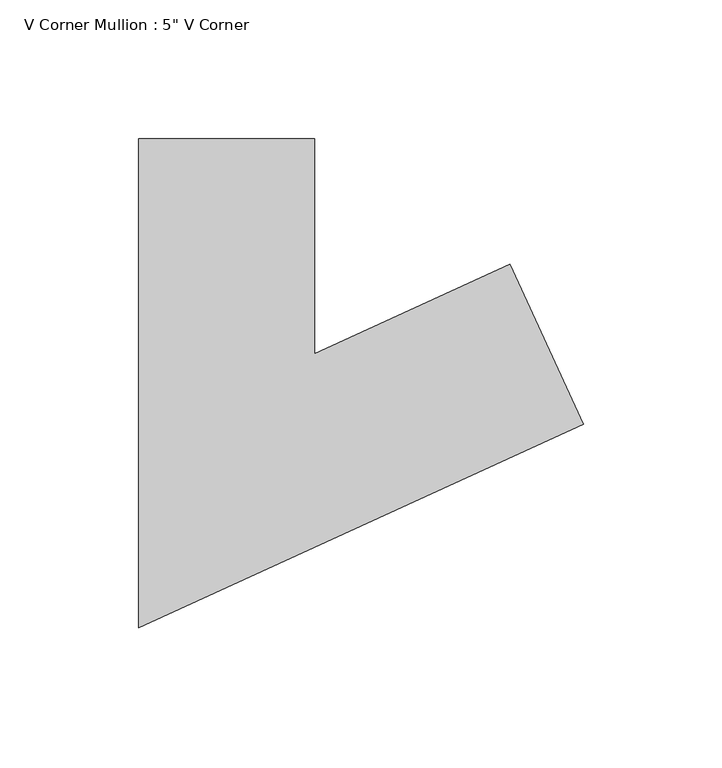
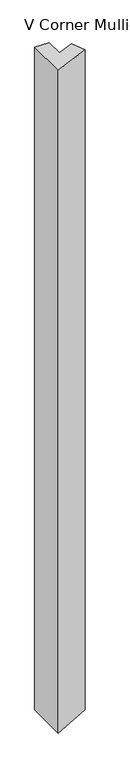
"""IFC4 building model written with IfcOpenShell, lengths in millimetres: member geometry."""

from ifc_helpers import new_model, si_unit, origin, place, context, project, spatial, faceted_brep, source, transform, mapped, element, save


def member_71d430ac(model_context):
    return source(origin(), model_context, "Body", "Brep", [
        faceted_brep([(61.49523, 18.2208415, -2.2200574), (87.9205542, -39.5195451, -3.1740458), (87.9205542, -39.5195451, -3045.05901), (61.49523, 18.2208415, -3046.012147), (-9.0228811, -14.0523047, 0.3257377), (-9.0228811, -14.0523047, -3048.5556699), (-9.0228811, 63.5, 0.3257377), (-9.0228811, 63.5, -3048.5556699), (-72.5228811, 63.5, 2.6181699), (-72.5228811, 63.5, -3050.8460561), (-72.5228811, -112.9476953, 2.6181699), (-72.5228811, -112.9476953, -3050.8460561)], [[[0, 1, 2, 3]], [[4, 0, 3, 5]], [[6, 4, 5, 7]], [[8, 6, 7, 9]], [[10, 8, 9, 11]], [[1, 10, 11, 2]], [[1, 0, 4, 6, 8, 10]], [[2, 11, 9, 7, 5, 3]]]),
    ])


if __name__ == "__main__":
    model = new_model("IFC4")
    model_context = context("Model", 3, world=origin())
    ifc_project = project(units=[si_unit("LENGTHUNIT", "METRE", prefix="MILLI")], contexts=[model_context])
    site = spatial("IfcSite", under=ifc_project)
    building = spatial("IfcBuilding", under=site)
    placement = place(None, origin())
    member_shape = member_71d430ac(model_context)
    element("IfcMember", 1, ObjectType="V Corner Mullion : 5\" V Corner", at=placement, inside=building, context=model_context, shape_type="MappedRepresentation", body=[
        mapped(member_shape, transform((0.0, 0.0, 0.0), x_axis=(1.0, 0.0, 0.0), y_axis=(0.0, 1.0, 0.0), z_axis=(0.0, 0.0, 1.0))),
    ])
    save(model, "model.ifc")
